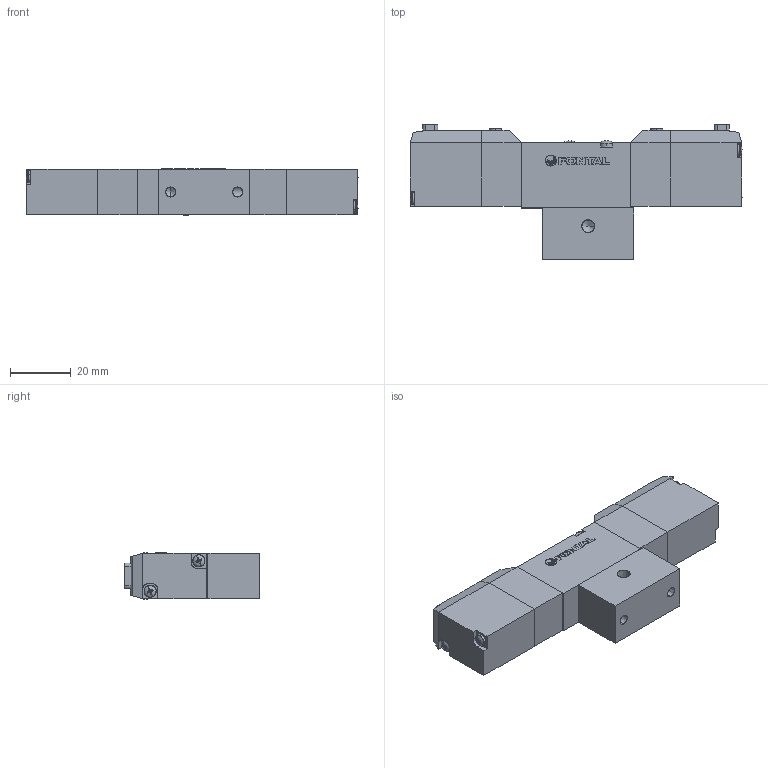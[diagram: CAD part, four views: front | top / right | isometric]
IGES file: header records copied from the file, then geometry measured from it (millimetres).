
Start section: SolidWorks IGES file using analytic representation for surfaces
Global section: file name: D:\Custom\3D繪製\PC\PC5\PCD345#-M5-#-U-#.IGS,1; native system: 5HSolidWorks 2014; preprocessor: SolidWorks 2014; author: Chieh_Lu; date: 150729.232024; units: millimetre
Bounding box: 109.14 x 44.5 x 15.4 mm (x, y, z)
Surface area: 17337.6 mm2 (no closed solid volume)
Topology: 0 solids, 0 shells, 516 faces, 4746 edges, 4724 vertices
Faces by surface type: bspline 321, revolution 195
